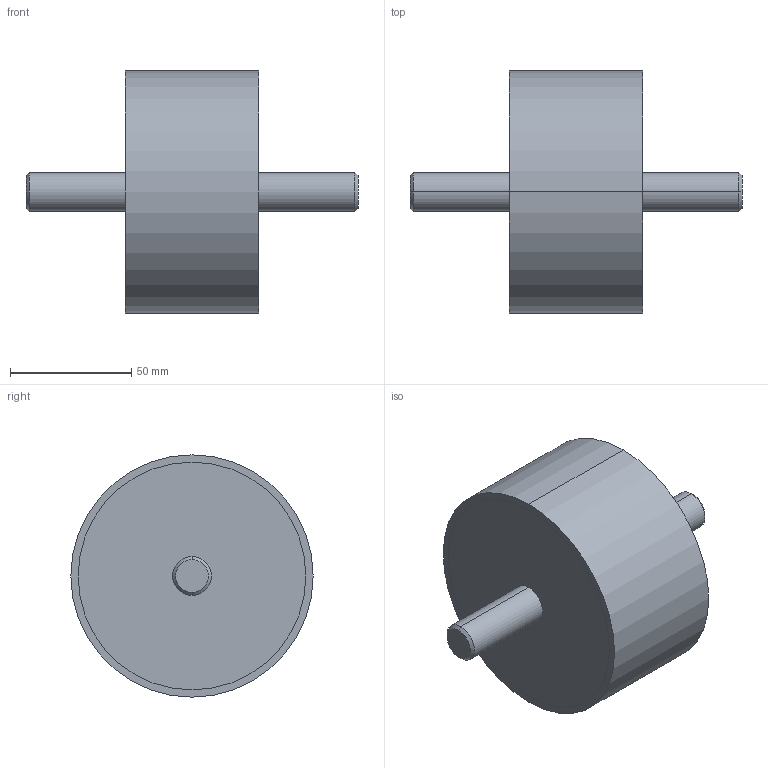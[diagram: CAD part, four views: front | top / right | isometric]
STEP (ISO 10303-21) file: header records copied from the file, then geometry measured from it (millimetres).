
FILE_DESCRIPTION (( 'STEP AP214' ), '1' );
FILE_NAME ('351-100-55-M16-SS-55.step', '2025-07-23T09:54:42', ( '' ), ( '' ), 'SwSTEP 2.0', 'SolidWorks 2022', '' );
FILE_SCHEMA (( 'AUTOMOTIVE_DESIGN' ));
Length unit declared in the file: millimetre
Products named in the file (1): 351-100-55-M16-SS-55
Bounding box: 137 x 100 x 100 mm (x, y, z)
Volume: 448246.8 mm3; surface area: 37037.7 mm2
Topology: 1 solids, 1 shells, 20 faces, 38 edges, 24 vertices
Faces by surface type: cylinder 10, plane 6, cone 4
Entity records: 636 total; most frequent: DIRECTION 104, CARTESIAN_POINT 83, ORIENTED_EDGE 76, AXIS2_PLACEMENT_3D 45, EDGE_CURVE 38, CIRCLE 24, EDGE_LOOP 24, VERTEX_POINT 24
